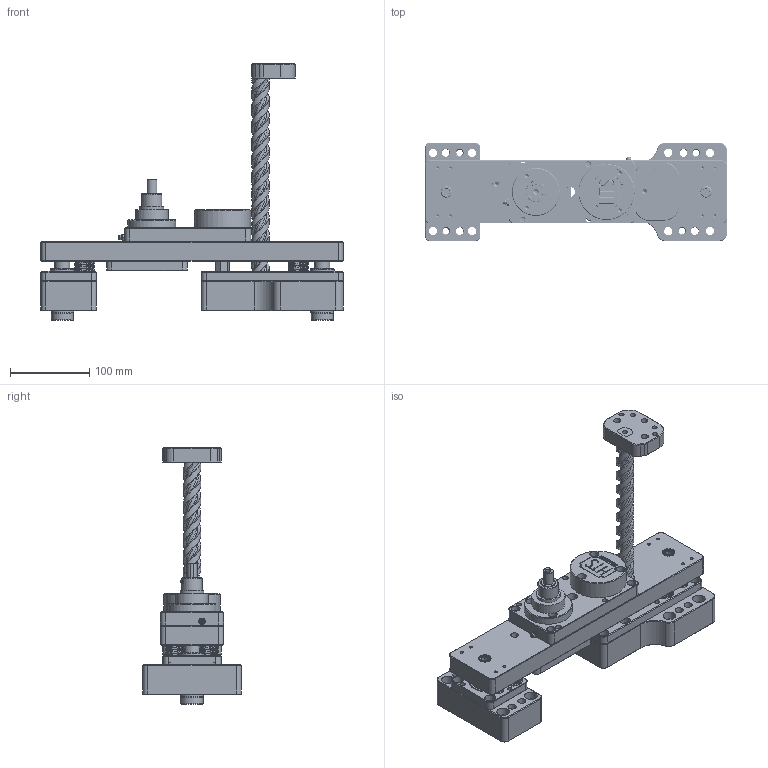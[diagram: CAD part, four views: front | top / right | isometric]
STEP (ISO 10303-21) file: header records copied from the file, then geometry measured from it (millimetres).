
FILE_DESCRIPTION(/* description */ ('Unknown'),/* implementation_level */ '2;1');
FILE_NAME(/* name */ '3100-7 in strk',/* time_stamp */ '2018-07-24T14:27:50-04:00',/* author */ ('Unknown'),/* organization */ ('Unknown'),/* preprocessor_version */ 'ST-DEVELOPER v16.7',/* originating_system */ 'DEX',/* authorisation */ $);
FILE_SCHEMA (('AUTOMOTIVE_DESIGN {1 0 10303 214 3 1 1}'));
Products named in the file (28): 3100-000 new std; 3107C-000C; Tap 6-32; 3118-000; 3126-001; 3127-001; 3022-632; 3107A-000C; 3107B-000C; 3129-200; 3012-000; 3147-000; 3106A-000-STD; 3106B-000-STD; 3011-007FA; 3025-000; 3020-032; 3008-000; 3136-168; 3017-000; 3137A-000-STD; 3137B-000-STD; 3121-000; 3138B-075; 3_8-16X750_SHCS; BUSHING-BU-_75ID-1_985LONG_BUSH; 3138-300; 3119-000
Assembly tree (35 placements, depth 2):
  3100-000 new std
    3107C-000C
    Tap 6-32
    3118-000
    3126-001
    3127-001
    3022-632
    3107A-000C
    3107B-000C
    3129-200  x4
    3012-000
    3147-000
    3106A-000-STD
    3106B-000-STD
    3011-007FA
    3025-000
    3020-032
    3008-000
    3136-168
    3017-000  x2
    3137A-000-STD
    3137B-000-STD
    3121-000
    3138B-075  x2
    3_8-16X750_SHCS  x2
    BUSHING-BU-_75ID-1_985LONG_BUSH  x2
    3138-300  x2
    3119-000
Bounding box: 380.37 x 123.83 x 323.47 mm (x, y, z)
Volume: 2304663.6 mm3; surface area: 554127.4 mm2
Topology: 35 solids, 35 shells, 1433 faces, 3812 edges, 2546 vertices
Faces by surface type: plane 563, cylinder 514, cone 227, bspline 78, torus 47, sphere 4
Full cylindrical faces by diameter (mm): 1.587 x4, 1.981 x4, 2.769 x1, 3.175 x1, 3.454 x6, 3.551 x6, 3.581 x1, 3.797 x8, 4.166 x5, 4.915 x1, 5.105 x8, 5.156 x12, 5.954 x2, 6.35 x25, 6.528 x12, 7.137 x1, 7.142 x9, 7.144 x9, 7.849 x1, 7.938 x18, 8.73 x1, 8.731 x3, 8.733 x9, 8.763 x1, 9.058 x1, 9.525 x10, 10.312 x4, 10.317 x18, 11.113 x14, 11.824 x1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
Entity records: 79928 total; most frequent: CARTESIAN_POINT 47602, DIRECTION 5118, ORIENTED_EDGE 4740, EDGE_CURVE 2370, AXIS2_PLACEMENT_3D 2067, FACE_BOUND 1894, EDGE_LOOP 1865, VERTEX_POINT 1776
